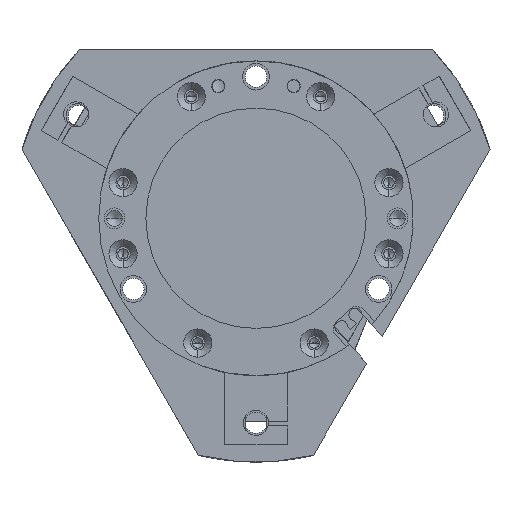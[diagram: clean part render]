
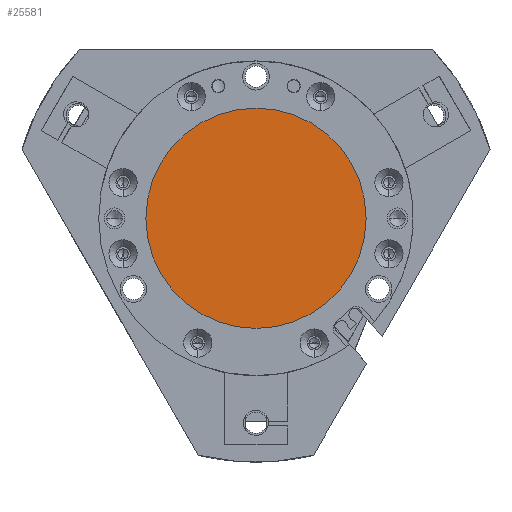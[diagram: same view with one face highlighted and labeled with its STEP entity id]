
A CAD part, front view. The second image highlights one B-rep face of the part: STEP entity #25581.
In plain terms, the highlighted planar face has unit normal (0, -1, 0) as drawn and (0, 1, 0) by its records, which use the part's own axes.
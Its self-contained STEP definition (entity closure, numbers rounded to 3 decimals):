
#1448 = FACE_OUTER_BOUND ( 'NONE', #25887, .T. ) ;
#2058 = CARTESIAN_POINT ( 'NONE',  ( 0., 5.8, 0. ) ) ;
#2075 = DIRECTION ( 'NONE',  ( 0., 0., 1. ) ) ;
#4593 = DIRECTION ( 'NONE',  ( 0., 0., -1. ) ) ;
#5704 = AXIS2_PLACEMENT_3D ( 'NONE', #2058, #19828, #4593 ) ;
#6677 = CARTESIAN_POINT ( 'NONE',  ( 0., 5.8, -35. ) ) ;
#8447 = CARTESIAN_POINT ( 'NONE',  ( 0., 5.8, 0. ) ) ;
#9245 = CIRCLE ( 'NONE', #5704, 35. ) ;
#10981 = DIRECTION ( 'NONE',  ( 0., 0., -1. ) ) ;
#12004 = ORIENTED_EDGE ( 'NONE', *, *, #19170, .T. ) ;
#16685 = VERTEX_POINT ( 'NONE', #23435 ) ;
#17310 = DIRECTION ( 'NONE',  ( 0., 1., 0. ) ) ;
#19170 = EDGE_CURVE ( 'NONE', #24048, #16685, #9245, .T. ) ;
#19828 = DIRECTION ( 'NONE',  ( 0., 1., 0. ) ) ;
#23435 = CARTESIAN_POINT ( 'NONE',  ( 0., 5.8, 35. ) ) ;
#23822 = AXIS2_PLACEMENT_3D ( 'NONE', #8447, #26234, #10981 ) ;
#23844 = EDGE_CURVE ( 'NONE', #16685, #24048, #25865, .T. ) ;
#24048 = VERTEX_POINT ( 'NONE', #6677 ) ;
#25169 = ORIENTED_EDGE ( 'NONE', *, *, #23844, .T. ) ;
#25581 = ADVANCED_FACE ( 'NONE', ( #1448 ), #27280, .T. ) ;
#25865 = CIRCLE ( 'NONE', #23822, 35. ) ;
#25887 = EDGE_LOOP ( 'NONE', ( #12004, #25169 ) ) ;
#26234 = DIRECTION ( 'NONE',  ( 0., 1., 0. ) ) ;
#27280 = PLANE ( 'NONE',  #30517 ) ;
#30517 = AXIS2_PLACEMENT_3D ( 'NONE', #32477, #17310, #2075 ) ;
#32477 = CARTESIAN_POINT ( 'NONE',  ( 0., 5.8, 0. ) ) ;
